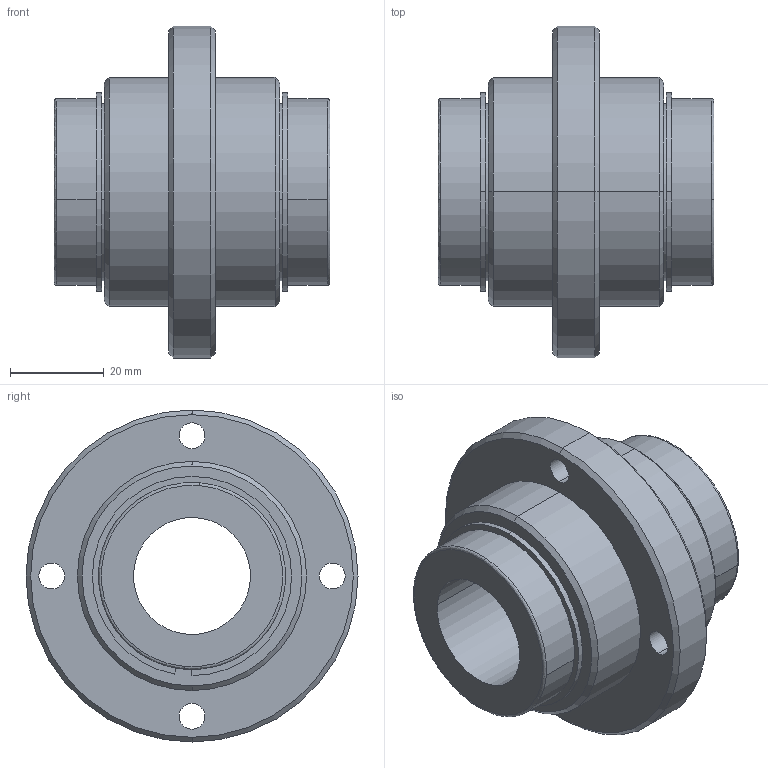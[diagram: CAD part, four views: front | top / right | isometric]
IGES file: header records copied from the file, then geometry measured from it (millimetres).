
Start section: 3D InterOp IGES (Version 21 0 1), Spatial Corp. Copyright (c) 1999-2007.
Global section: file name: PNCD-25VUU.igs; native system: Spatial Corp.; preprocessor: 3D InterOp GENERIC/IGES 3.0; author: Noname; organization: Noname; date: 20220207.092739; units: millimetre
Bounding box: 59 x 71 x 71 mm (x, y, z)
Surface area: 32350.5 mm2 (no closed solid volume)
Topology: 0 solids, 0 shells, 66 faces, 300 edges, 300 vertices
Faces by surface type: revolution 48, extrusion 18
